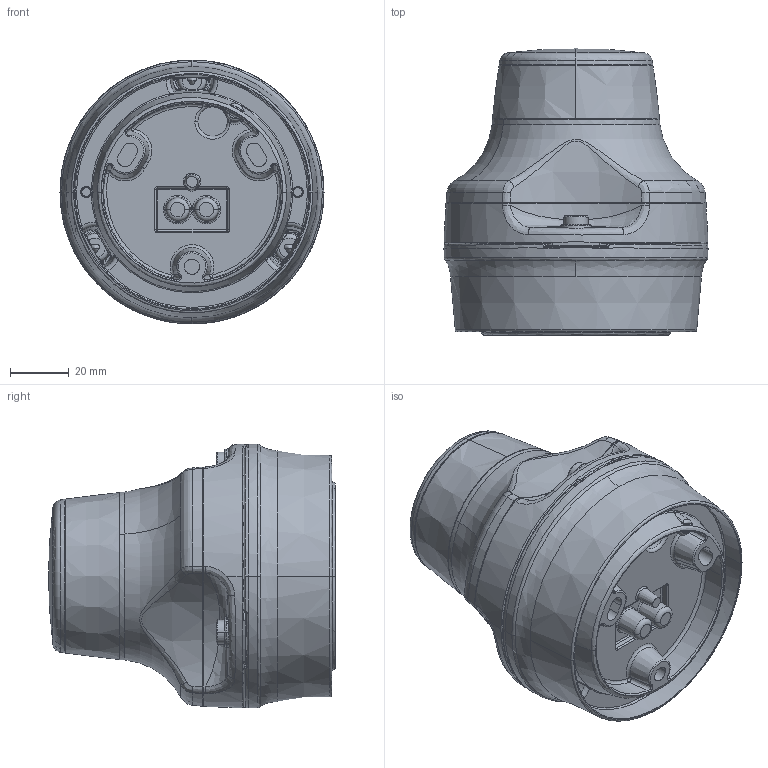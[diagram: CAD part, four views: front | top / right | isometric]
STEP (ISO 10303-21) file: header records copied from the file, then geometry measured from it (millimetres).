
FILE_DESCRIPTION(('CATIA V5 STEP Exchange','CAx-IF Rec.Pracs.--- Model Styling and Organization---1.5--- 2016-08-15','CAx-IF Rec.Pracs.---Supplemental Geometry---1.0---2011-11-01','CAx-IF Rec.Pracs.---Representation and Presentation of Product Manufacturing Information (PMI)---4.0---2014-10-13','CAx-IF Rec.Pracs.--- Composite Materials ---3.4---2017-06-13','CAx-IF Rec.Pracs.---Tessellated 3D Geometry---1.0---2015-12-17'),'2;1');
FILE_NAME('C:\Users\wallra4\OneDrive - FORVIA\Documents\raymonds documents\customer ddx\980.910-12\10002561705_D10_001_Naviled_360_Pro_Geometry.stp','2026-10-01T21:38:18+00:00',('none'),('none'),'CATIA Version 5-6 Release 2022 SP3 HF41','CATIA V5 STEP AP242 v2','none');
FILE_SCHEMA(('AP242_MANAGED_MODEL_BASED_3D_ENGINEERING_MIM_LF {1 0 10303 442 3 1 4}'));
Length unit declared in the file: millimetre
Products named in the file (1): 10002561705_D10_001
Bounding box: 89.92 x 97.7 x 89.88 mm (x, y, z)
Volume: 254102.3 mm3; surface area: 63718.4 mm2
Topology: 5 solids, 5 shells, 1173 faces, 2987 edges, 1754 vertices
Faces by surface type: bspline 466, torus 192, plane 178, cone 164, cylinder 115, sphere 58
Entity records: 72149 total; most frequent: CARTESIAN_POINT 53291, ORIENTED_EDGE 5798, EDGE_CURVE 2899, B_SPLINE_CURVE_WITH_KNOTS 1921, VERTEX_POINT 1754, DIRECTION 1416, EDGE_LOOP 1221, ADVANCED_FACE 1173
